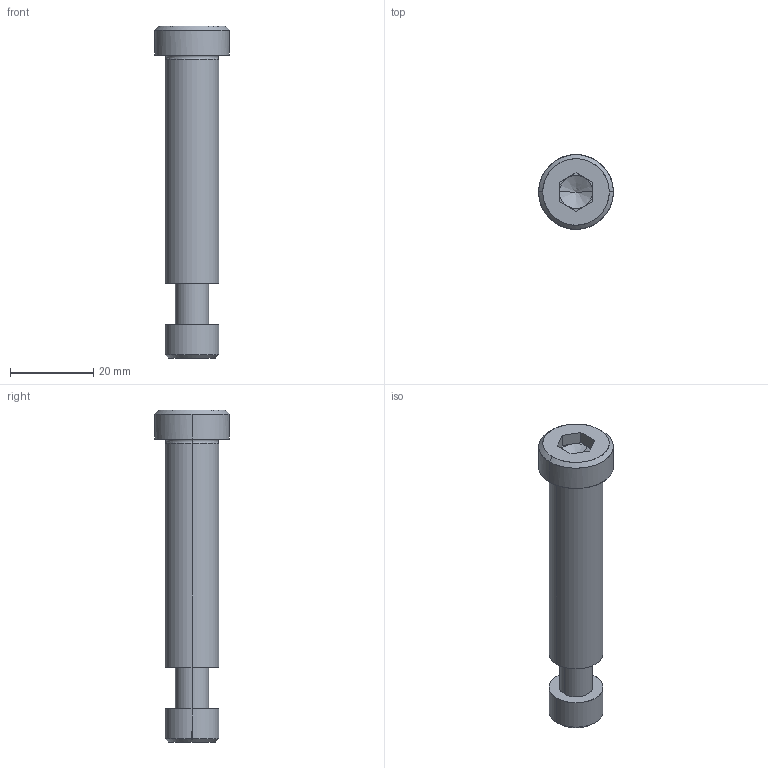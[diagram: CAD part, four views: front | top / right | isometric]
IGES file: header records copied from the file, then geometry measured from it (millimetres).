
Global section: file name: E:\UnigraphicsGraphicData\MISUMI_PRESS-PARTS\IGES\3d_sbtc13-55_05098_r00.igs; native system: NX V5.0; preprocessor: UGS NX IGES V5.0; author: MISUMI; date: 20110105.162445; units: millimetre
Bounding box: 18 x 18 x 80 mm (x, y, z)
Surface area: 4905.4 mm2 (no closed solid volume)
Topology: 0 solids, 0 shells, 52 faces, 286 edges, 282 vertices
Faces by surface type: bspline 52
